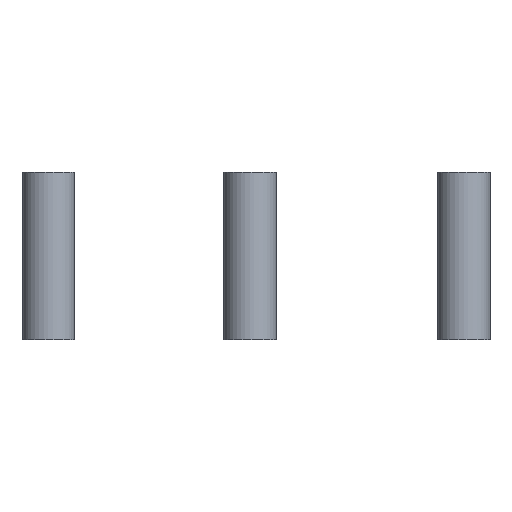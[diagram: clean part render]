
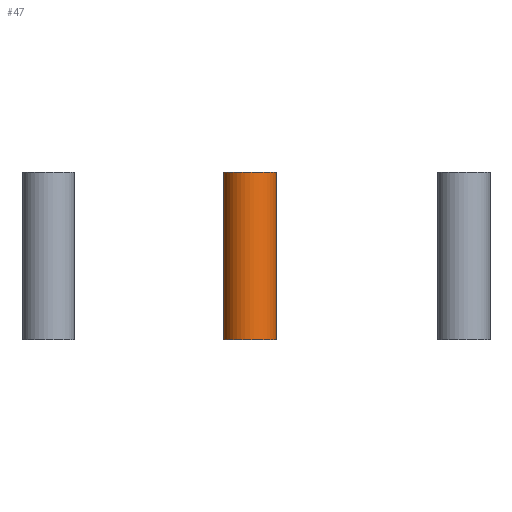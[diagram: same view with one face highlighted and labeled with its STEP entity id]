
A CAD part, left-side view. The second image highlights one B-rep face of the part: STEP entity #47.
In plain terms, the highlighted cylindrical face has radius 0.85 mm (diameter 1.7 mm), a full revolution.
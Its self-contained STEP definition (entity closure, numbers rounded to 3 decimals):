
#47 = ADVANCED_FACE('',(#48),#61,.T.);
#48 = FACE_BOUND('',#49,.T.);
#49 = EDGE_LOOP('',(#50,#84,#107,#134));
#50 = ORIENTED_EDGE('',*,*,#51,.F.);
#51 = EDGE_CURVE('',#52,#52,#54,.T.);
#52 = VERTEX_POINT('',#53);
#53 = CARTESIAN_POINT('',(-32.55,44.4,-7.6));
#54 = SURFACE_CURVE('',#55,(#60,#72),.PCURVE_S1.);
#55 = CIRCLE('',#56,0.85);
#56 = AXIS2_PLACEMENT_3D('',#57,#58,#59);
#57 = CARTESIAN_POINT('',(-33.4,44.4,-7.6));
#58 = DIRECTION('',(0.,0.,1.));
#59 = DIRECTION('',(1.,0.,-0.));
#60 = PCURVE('',#61,#66);
#61 = CYLINDRICAL_SURFACE('',#62,0.85);
#62 = AXIS2_PLACEMENT_3D('',#63,#64,#65);
#63 = CARTESIAN_POINT('',(-33.4,44.4,-13.));
#64 = DIRECTION('',(0.,0.,1.));
#65 = DIRECTION('',(1.,0.,-0.));
#66 = DEFINITIONAL_REPRESENTATION('',(#67),#71);
#67 = LINE('',#68,#69);
#68 = CARTESIAN_POINT('',(0.,5.4));
#69 = VECTOR('',#70,1.);
#70 = DIRECTION('',(1.,0.));
#71 = ( GEOMETRIC_REPRESENTATION_CONTEXT(2) 
PARAMETRIC_REPRESENTATION_CONTEXT() REPRESENTATION_CONTEXT('2D SPACE',''
  ) );
#72 = PCURVE('',#73,#78);
#73 = PLANE('',#74);
#74 = AXIS2_PLACEMENT_3D('',#75,#76,#77);
#75 = CARTESIAN_POINT('',(-33.4,44.4,-7.6));
#76 = DIRECTION('',(0.,0.,1.));
#77 = DIRECTION('',(1.,0.,-0.));
#78 = DEFINITIONAL_REPRESENTATION('',(#79),#83);
#79 = CIRCLE('',#80,0.85);
#80 = AXIS2_PLACEMENT_2D('',#81,#82);
#81 = CARTESIAN_POINT('',(0.,0.));
#82 = DIRECTION('',(1.,0.));
#83 = ( GEOMETRIC_REPRESENTATION_CONTEXT(2) 
PARAMETRIC_REPRESENTATION_CONTEXT() REPRESENTATION_CONTEXT('2D SPACE',''
  ) );
#84 = ORIENTED_EDGE('',*,*,#85,.F.);
#85 = EDGE_CURVE('',#86,#52,#88,.T.);
#86 = VERTEX_POINT('',#87);
#87 = CARTESIAN_POINT('',(-32.55,44.4,-13.));
#88 = SEAM_CURVE('',#89,(#93,#100),.PCURVE_S1.);
#89 = LINE('',#90,#91);
#90 = CARTESIAN_POINT('',(-32.55,44.4,-13.));
#91 = VECTOR('',#92,1.);
#92 = DIRECTION('',(0.,0.,1.));
#93 = PCURVE('',#61,#94);
#94 = DEFINITIONAL_REPRESENTATION('',(#95),#99);
#95 = LINE('',#96,#97);
#96 = CARTESIAN_POINT('',(6.283,-0.));
#97 = VECTOR('',#98,1.);
#98 = DIRECTION('',(0.,1.));
#99 = ( GEOMETRIC_REPRESENTATION_CONTEXT(2) 
PARAMETRIC_REPRESENTATION_CONTEXT() REPRESENTATION_CONTEXT('2D SPACE',''
  ) );
#100 = PCURVE('',#61,#101);
#101 = DEFINITIONAL_REPRESENTATION('',(#102),#106);
#102 = LINE('',#103,#104);
#103 = CARTESIAN_POINT('',(0.,-0.));
#104 = VECTOR('',#105,1.);
#105 = DIRECTION('',(0.,1.));
#106 = ( GEOMETRIC_REPRESENTATION_CONTEXT(2) 
PARAMETRIC_REPRESENTATION_CONTEXT() REPRESENTATION_CONTEXT('2D SPACE',''
  ) );
#107 = ORIENTED_EDGE('',*,*,#108,.T.);
#108 = EDGE_CURVE('',#86,#86,#109,.T.);
#109 = SURFACE_CURVE('',#110,(#115,#122),.PCURVE_S1.);
#110 = CIRCLE('',#111,0.85);
#111 = AXIS2_PLACEMENT_3D('',#112,#113,#114);
#112 = CARTESIAN_POINT('',(-33.4,44.4,-13.));
#113 = DIRECTION('',(0.,0.,1.));
#114 = DIRECTION('',(1.,0.,-0.));
#115 = PCURVE('',#61,#116);
#116 = DEFINITIONAL_REPRESENTATION('',(#117),#121);
#117 = LINE('',#118,#119);
#118 = CARTESIAN_POINT('',(0.,0.));
#119 = VECTOR('',#120,1.);
#120 = DIRECTION('',(1.,0.));
#121 = ( GEOMETRIC_REPRESENTATION_CONTEXT(2) 
PARAMETRIC_REPRESENTATION_CONTEXT() REPRESENTATION_CONTEXT('2D SPACE',''
  ) );
#122 = PCURVE('',#123,#128);
#123 = PLANE('',#124);
#124 = AXIS2_PLACEMENT_3D('',#125,#126,#127);
#125 = CARTESIAN_POINT('',(-33.4,44.4,-13.));
#126 = DIRECTION('',(0.,0.,1.));
#127 = DIRECTION('',(1.,0.,-0.));
#128 = DEFINITIONAL_REPRESENTATION('',(#129),#133);
#129 = CIRCLE('',#130,0.85);
#130 = AXIS2_PLACEMENT_2D('',#131,#132);
#131 = CARTESIAN_POINT('',(0.,0.));
#132 = DIRECTION('',(1.,0.));
#133 = ( GEOMETRIC_REPRESENTATION_CONTEXT(2) 
PARAMETRIC_REPRESENTATION_CONTEXT() REPRESENTATION_CONTEXT('2D SPACE',''
  ) );
#134 = ORIENTED_EDGE('',*,*,#85,.T.);
